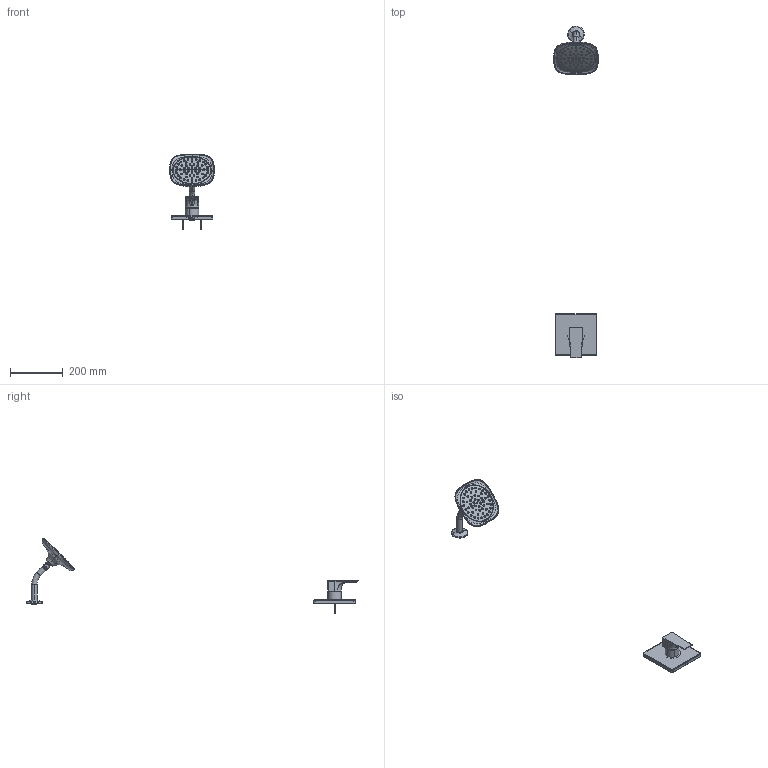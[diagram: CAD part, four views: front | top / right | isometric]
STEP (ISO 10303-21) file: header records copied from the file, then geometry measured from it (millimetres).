
FILE_DESCRIPTION (( 'STEP AP214' ), '1' );
FILE_NAME ('4991TRM.STEP', '2025-01-02T03:20:24', ( '' ), ( '' ), 'SwSTEP 2.0', 'SolidWorks 2023', '' );
FILE_SCHEMA (( 'AUTOMOTIVE_DESIGN' ));
Products named in the file (1): 4991TRM
Bounding box: 169.76 x 1263.89 x 287.96 mm (x, y, z)
Surface area: 222000.6 mm2 (no closed solid volume)
Topology: 0 solids, 198 shells, 863 faces, 2970 edges, 2274 vertices
Faces by surface type: plane 233, cylinder 215, cone 209, bspline 131, torus 75
Entity records: 89409 total; most frequent: CARTESIAN_POINT 66021, DIRECTION 4398, ORIENTED_EDGE 4316, EDGE_CURVE 2964, VERTEX_POINT 2274, AXIS2_PLACEMENT_3D 1701, EDGE_LOOP 1027, VECTOR 996
